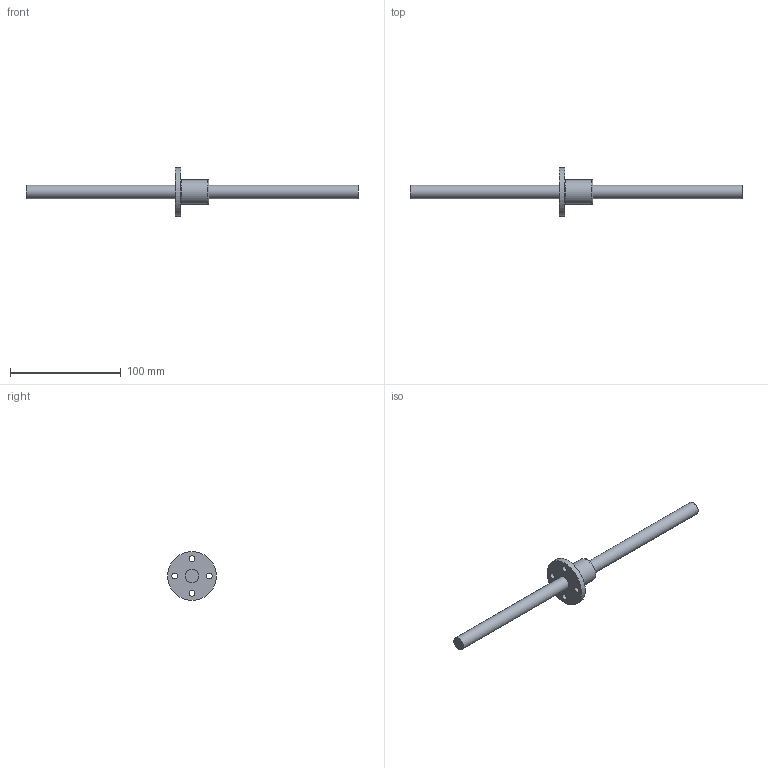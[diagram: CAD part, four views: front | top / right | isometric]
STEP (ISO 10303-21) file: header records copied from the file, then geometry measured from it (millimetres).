
FILE_DESCRIPTION((''),'2;1');
FILE_NAME('D:\製品 (図面)\カタログ用3D\ネジ関連\STEP形式\TMF\TMF12.stp','2010-06-02T14:57:56',('Tsuchiya'),(''),'Autodesk Inventor 10','Autodesk Inventor 10','');
FILE_SCHEMA(('AUTOMOTIVE_DESIGN { 1 0 10303 214 1 1 1 1 }'));
Length unit declared in the file: millimetre
Products named in the file (3): TMF12; TMF121; TMF122
Assembly tree (2 placements, depth 2):
  TMF12
    TMF121
    TMF122
Bounding box: 300 x 44 x 44 mm (x, y, z)
Volume: 47173.4 mm3; surface area: 18012 mm2
Topology: 2 solids, 2 shells, 15 faces, 32 edges, 22 vertices
Faces by surface type: cylinder 8, plane 5, torus 1, bspline 1
Full cylindrical faces by diameter (mm): 5.4 x4, 12 x2, 22 x1, 44 x1
Entity records: 470 total; most frequent: CARTESIAN_POINT 100, DIRECTION 74, AXIS2_PLACEMENT_3D 37, ORIENTED_EDGE 36, EDGE_LOOP 36, FACE_BOUND 21, VERTEX_POINT 18, CIRCLE 18
